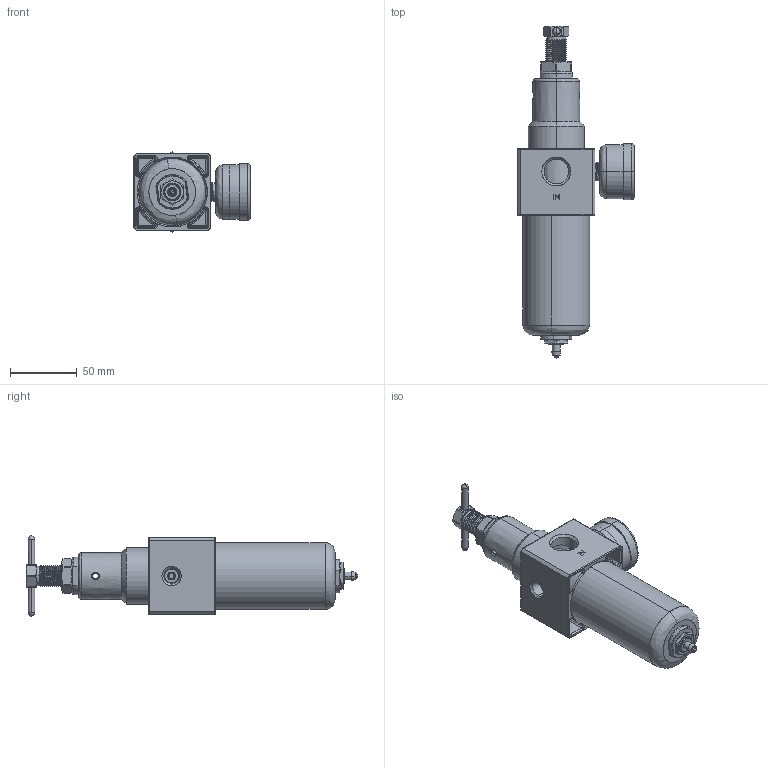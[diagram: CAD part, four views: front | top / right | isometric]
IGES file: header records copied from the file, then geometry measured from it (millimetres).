
Start section: SolidWorks IGES file using analytic representation for surfaces
Bounding box: 87.55 x 248.62 x 60 mm (x, y, z)
Surface area: 103503.5 mm2 (no closed solid volume)
Topology: 0 solids, 0 shells, 991 faces, 14401 edges, 14390 vertices
Faces by surface type: bspline 521, revolution 470
